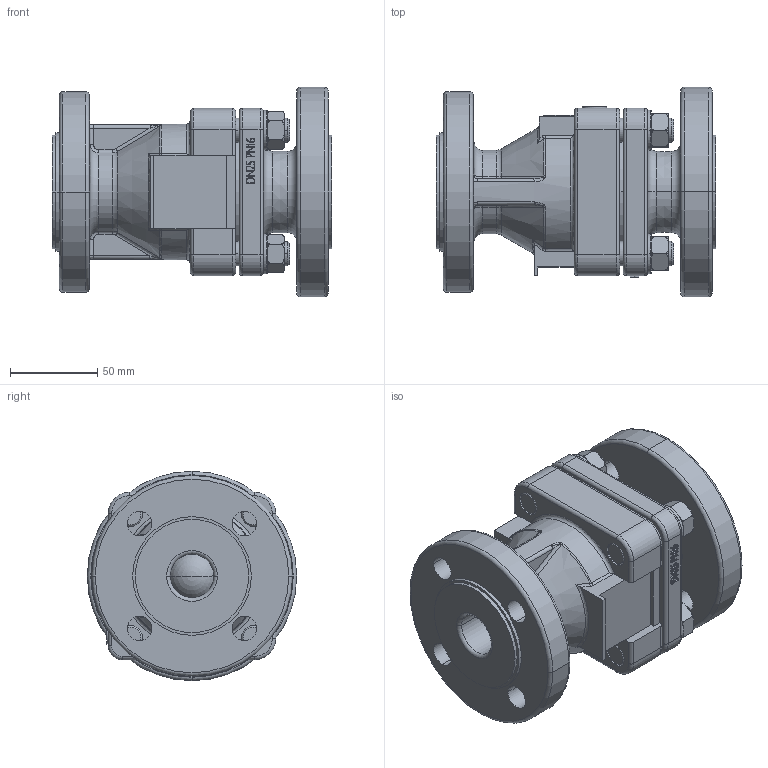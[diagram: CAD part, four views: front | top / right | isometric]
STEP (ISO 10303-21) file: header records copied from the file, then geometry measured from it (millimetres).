
FILE_DESCRIPTION((''),'2;1');
FILE_NAME('9595-25-0302_E_CV25_PROE','2015-03-19T',('SParmar1'),(''),'PRO/ENGINEER BY PARAMETRIC TECHNOLOGY CORPORATION, 2011040','PRO/ENGINEER BY PARAMETRIC TECHNOLOGY CORPORATION, 2011040','');
FILE_SCHEMA(('CONFIG_CONTROL_DESIGN'));
Length unit declared in the file: millimetre
Products named in the file (1): 9595-25-0302_E_CV25_PROE
Bounding box: 160 x 120 x 120 mm (x, y, z)
Volume: 940997.8 mm3; surface area: 127232.9 mm2
Topology: 1 solids, 5 shells, 546 faces, 1389 edges, 877 vertices
Faces by surface type: plane 164, cylinder 130, extrusion 110, torus 76, bspline 38, cone 24, sphere 4
Entity records: 19923 total; most frequent: CARTESIAN_POINT 7307, ORIENTED_EDGE 2750, DIRECTION 2301, EDGE_CURVE 1383, VERTEX_POINT 877, AXIS2_PLACEMENT_3D 816, VECTOR 669, EDGE_LOOP 608
